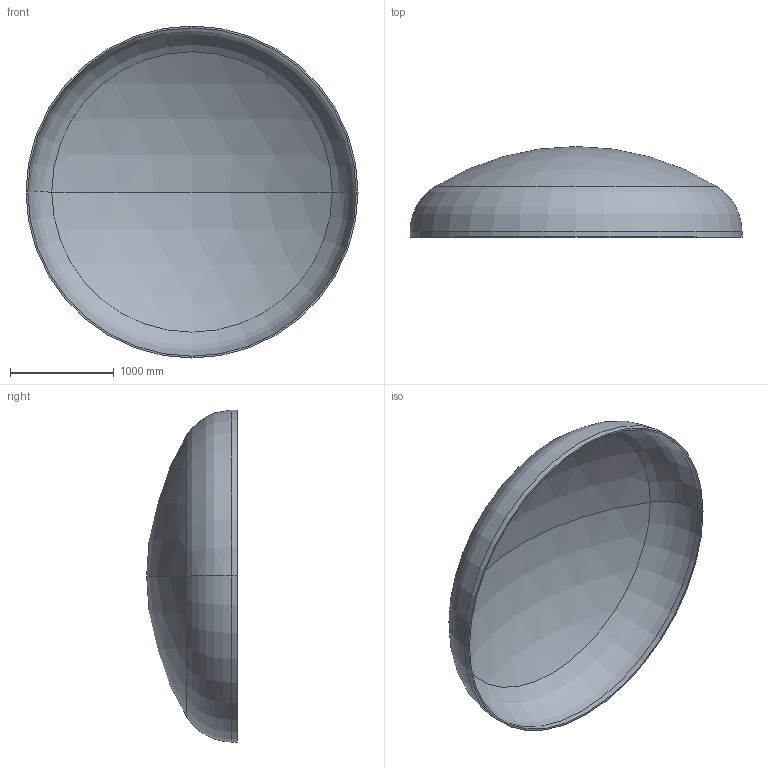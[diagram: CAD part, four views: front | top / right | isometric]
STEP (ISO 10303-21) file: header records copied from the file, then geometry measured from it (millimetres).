
FILE_DESCRIPTION (( 'STEP AP203' ), '1' );
FILE_NAME ('DIN 28013 Korbbogenform_-_Boden DIN 28013 - 3200 x 55 - I - s=17.step', '2016-07-01T18:22:13', ( '' ), ( '' ), 'SwSTEP 2.0', 'SolidWorks 2013', '' );
FILE_SCHEMA (( 'CONFIG_CONTROL_DESIGN' ));
Length unit declared in the file: millimetre
Products named in the file (1): DIN 28013 Korbbogenform_-_Boden DIN 28013 - 3200 x 55 - I - s=17
Bounding box: 3200 x 874.09 x 3200 mm (x, y, z)
Volume: 197180214.6 mm3; surface area: 23368263.1 mm2
Topology: 1 solids, 1 shells, 13 faces, 24 edges, 14 vertices
Faces by surface type: torus 4, cylinder 4, sphere 4, plane 1
Entity records: 407 total; most frequent: DIRECTION 72, CARTESIAN_POINT 52, ORIENTED_EDGE 48, AXIS2_PLACEMENT_3D 34, EDGE_CURVE 24, CIRCLE 20, VERTEX_POINT 14, EDGE_LOOP 14
